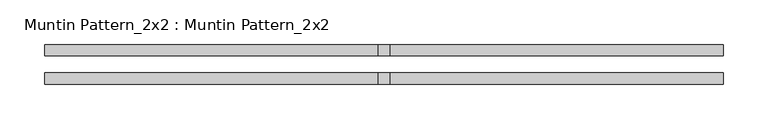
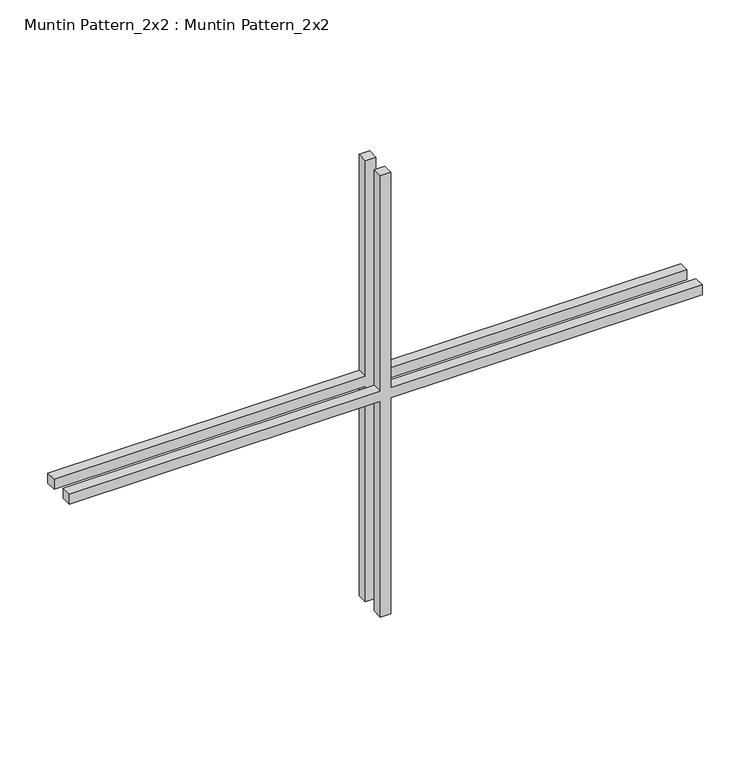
"""IFC4 building model written with IfcOpenShell, lengths in millimetres: proxy geometry, Muntin Pattern_2x2 : Muntin Pattern_2x2."""

from ifc_helpers import new_model, si_unit, frame, origin, place, context, project, spatial, polyline, outline, extrude, source, transform, mapped, element, save


def muntin_pattern_2x2_muntin_pattern_2x2_d71a372d(model_context):
    return source(origin(), model_context, "Body", "SweptSolid", [
        extrude(outline(polyline([(287.3375, -6.35), (287.3375, -381.0), (274.6375, -381.0), (274.6375, -6.35), (0.0, -6.35), (0.0, 6.35), (274.6375, 6.35), (274.6375, 381.0), (287.3375, 381.0), (287.3375, 6.35), (561.975, 6.35), (561.975, -6.35), (287.3375, -6.35)])), frame((0.0, 9.525, 0.0), z_axis=(0.0, 1.0, 0.0), x_axis=(0.0, 0.0, 1.0)), (0.0, 0.0, 1.0), 12.7),
        extrude(outline(polyline([(287.3375, -6.35), (287.3375, -381.0), (274.6375, -381.0), (274.6375, -6.35), (0.0, -6.35), (0.0, 6.35), (274.6375, 6.35), (274.6375, 381.0), (287.3375, 381.0), (287.3375, 6.35), (561.975, 6.35), (561.975, -6.35), (287.3375, -6.35)])), frame((0.0, -22.225, 0.0), z_axis=(0.0, 1.0, 0.0), x_axis=(0.0, 0.0, 1.0)), (0.0, 0.0, 1.0), 12.7),
    ])


if __name__ == "__main__":
    model = new_model("IFC4")
    model_context = context("Model", 3, world=origin())
    ifc_project = project(units=[si_unit("LENGTHUNIT", "METRE", prefix="MILLI")], contexts=[model_context])
    site = spatial("IfcSite", under=ifc_project)
    building = spatial("IfcBuilding", under=site)
    placement = place(None, origin())
    muntin_pattern_2x2_muntin_pattern_2x2_shape = muntin_pattern_2x2_muntin_pattern_2x2_d71a372d(model_context)
    element("IfcBuildingElementProxy", 1, Name="Muntin Pattern_2x2 : Muntin Pattern_2x2", ObjectType="Muntin Pattern_2x2 : Muntin Pattern_2x2", at=placement, inside=building, context=model_context, shape_type="MappedRepresentation", body=[
        mapped(muntin_pattern_2x2_muntin_pattern_2x2_shape, transform((0.0, 0.0, 0.0), x_axis=(1.0, 0.0, 0.0), y_axis=(0.0, 1.0, 0.0), z_axis=(0.0, 0.0, 1.0))),
    ])
    save(model, "model.ifc")
